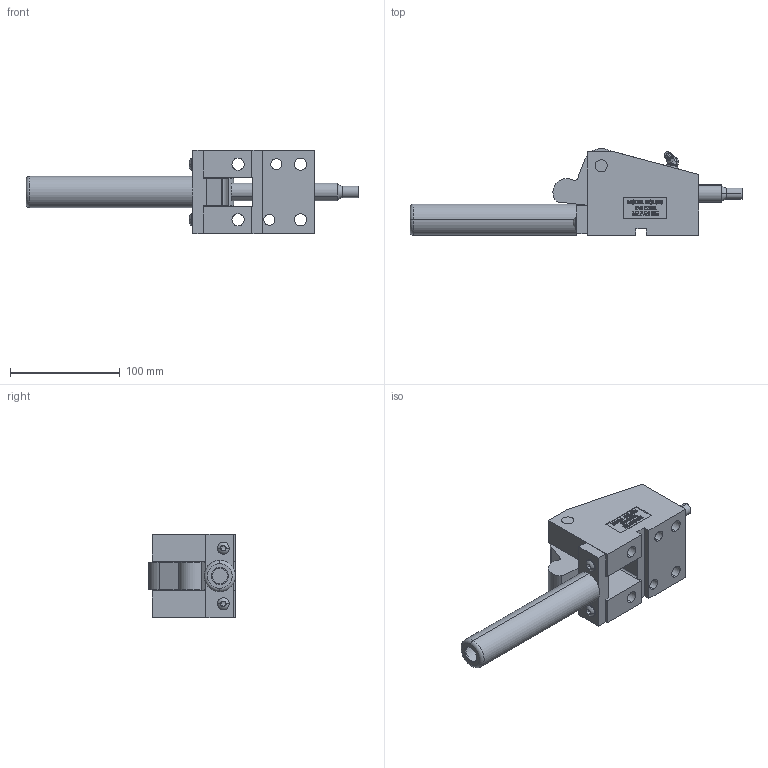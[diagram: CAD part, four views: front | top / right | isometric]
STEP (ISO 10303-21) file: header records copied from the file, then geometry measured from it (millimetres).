
FILE_DESCRIPTION (( 'STEP AP214' ), '1' );
FILE_NAME ('MOL62545-C.STEP', '2014-01-07T22:29:34', ( 'user' ), ( '' ), 'SwSTEP 2.0', 'SolidWorks 2009', '' );
FILE_SCHEMA (( 'AUTOMOTIVE_DESIGN' ));
Length unit declared in the file: inch
Products named in the file (1): MOL62545-C
Bounding box: 303.07 x 79.37 x 76.2 mm (x, y, z)
Surface area: 110652.3 mm2 (no closed solid volume)
Topology: 0 solids, 10 shells, 411 faces, 1469 edges, 1009 vertices
Faces by surface type: plane 227, cylinder 77, bspline 73, torus 18, cone 12, sphere 4
Entity records: 25969 total; most frequent: CARTESIAN_POINT 8962, ORIENTED_EDGE 2358, DIRECTION 2054, EDGE_CURVE 1467, VERTEX_POINT 1009, VECTOR 952, LINE 952, AXIS2_PLACEMENT_3D 551
